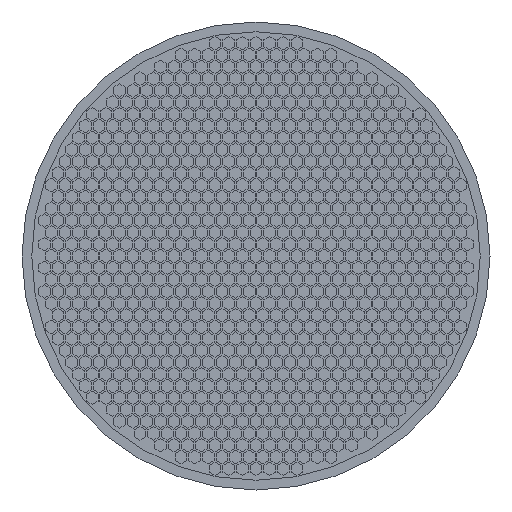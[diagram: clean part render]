
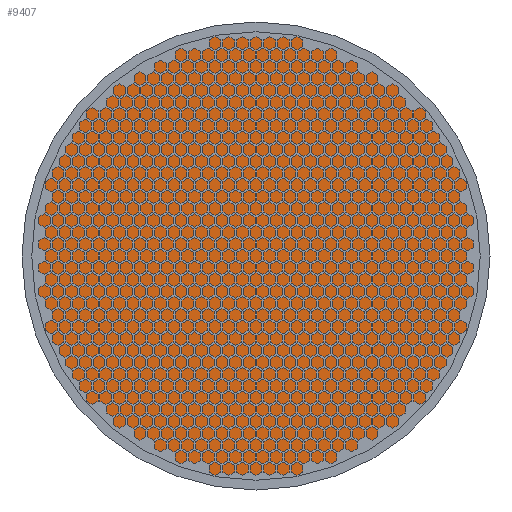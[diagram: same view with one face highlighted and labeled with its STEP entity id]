
A CAD part, front view. The second image highlights one B-rep face of the part: STEP entity #9407.
In plain terms, the highlighted planar face has unit normal (0, -1, 0).
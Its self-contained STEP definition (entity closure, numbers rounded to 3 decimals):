
#2475 = ORIENTED_EDGE ( 'NONE', *, *, #172281, .T. ) ;
#4509 = DIRECTION ( 'NONE',  ( 0., 0., -1. ) ) ;
#9407 = ADVANCED_FACE ( 'NONE', ( #55173 ), #124330, .T. ) ;
#23380 = DIRECTION ( 'NONE',  ( 0., -1., 0. ) ) ;
#37191 = AXIS2_PLACEMENT_3D ( 'NONE', #40960, #156465, #40031 ) ;
#40031 = DIRECTION ( 'NONE',  ( 0., 0., -1. ) ) ;
#40960 = CARTESIAN_POINT ( 'NONE',  ( 0., -669.5, 0. ) ) ;
#51418 = EDGE_LOOP ( 'NONE', ( #2475 ) ) ;
#55173 = FACE_OUTER_BOUND ( 'NONE', #51418, .T. ) ;
#66836 = VERTEX_POINT ( 'NONE', #124565 ) ;
#124330 = PLANE ( 'NONE',  #37191 ) ;
#124565 = CARTESIAN_POINT ( 'NONE',  ( 0., -669.5, -57.5 ) ) ;
#153115 = CARTESIAN_POINT ( 'NONE',  ( 0., -669.5, 0. ) ) ;
#156465 = DIRECTION ( 'NONE',  ( 0., -1., 0. ) ) ;
#158467 = CIRCLE ( 'NONE', #176735, 57.5 ) ;
#172281 = EDGE_CURVE ( 'NONE', #66836, #66836, #158467, .T. ) ;
#176735 = AXIS2_PLACEMENT_3D ( 'NONE', #153115, #23380, #4509 ) ;
